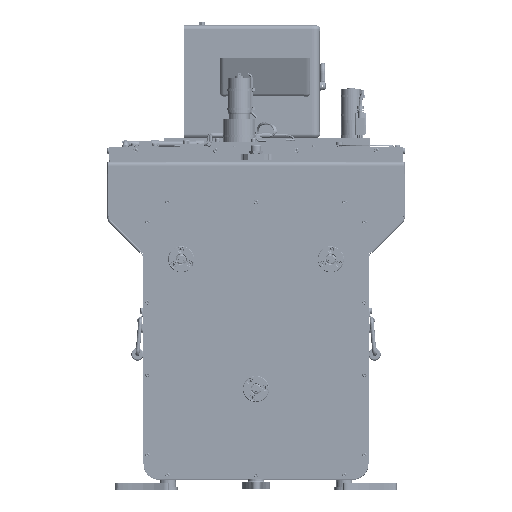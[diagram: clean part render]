
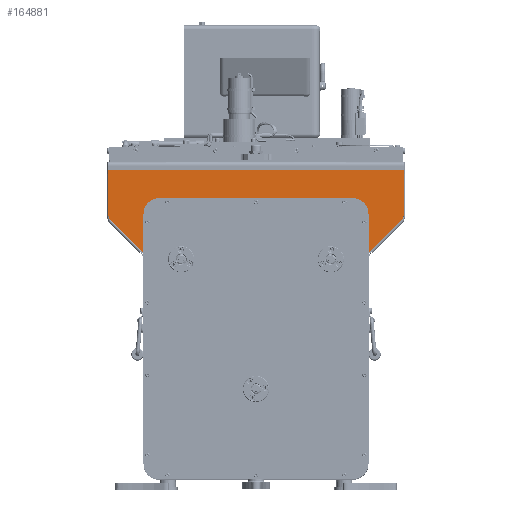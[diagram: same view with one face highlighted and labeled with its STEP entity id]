
A CAD part, top view. The second image highlights one B-rep face of the part: STEP entity #164881.
In plain terms, the highlighted planar face has unit normal (0, 0, 1).
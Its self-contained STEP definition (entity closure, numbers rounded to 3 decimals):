
#4655 = VERTEX_POINT ( 'NONE', #540386 ) ;
#5173 = AXIS2_PLACEMENT_3D ( 'NONE', #178310, #486460, #222615 ) ;
#5238 = CARTESIAN_POINT ( 'NONE',  ( 7., 5.853, 11.475 ) ) ;
#12779 = EDGE_CURVE ( 'NONE', #356141, #18304, #246631, .T. ) ;
#14145 = DIRECTION ( 'NONE',  ( 1., 0., 0. ) ) ;
#18304 = VERTEX_POINT ( 'NONE', #188521 ) ;
#23604 = AXIS2_PLACEMENT_3D ( 'NONE', #222721, #93561, #532765 ) ;
#31294 = VECTOR ( 'NONE', #378838, 39.37 ) ;
#39405 = CIRCLE ( 'NONE', #193592, 0.5 ) ;
#53566 = VECTOR ( 'NONE', #123941, 39.37 ) ;
#60147 = LINE ( 'NONE', #77439, #280729 ) ;
#69005 = CARTESIAN_POINT ( 'NONE',  ( 9.19, 11.043, 11.475 ) ) ;
#75852 = ORIENTED_EDGE ( 'NONE', *, *, #169968, .T. ) ;
#77439 = CARTESIAN_POINT ( 'NONE',  ( 7., 5.853, 11.475 ) ) ;
#92189 = EDGE_CURVE ( 'NONE', #502926, #368283, #352609, .T. ) ;
#93561 = DIRECTION ( 'NONE',  ( 0., 0., -1. ) ) ;
#98850 = PLANE ( 'NONE',  #281097 ) ;
#100334 = ORIENTED_EDGE ( 'NONE', *, *, #124029, .T. ) ;
#113729 = FACE_OUTER_BOUND ( 'NONE', #284913, .T. ) ;
#122402 = EDGE_CURVE ( 'NONE', #4655, #432500, #396541, .T. ) ;
#123941 = DIRECTION ( 'NONE',  ( 1., 0., 0. ) ) ;
#124029 = EDGE_CURVE ( 'NONE', #458742, #272753, #196140, .T. ) ;
#130610 = CARTESIAN_POINT ( 'NONE',  ( 7., 5.853, 11.475 ) ) ;
#155633 = CARTESIAN_POINT ( 'NONE',  ( 8.69, 8.25, 11.475 ) ) ;
#164881 = ADVANCED_FACE ( 'NONE', ( #113729 ), #98850, .T. ) ;
#167557 = CARTESIAN_POINT ( 'NONE',  ( -8.69, 8.25, 11.475 ) ) ;
#169968 = EDGE_CURVE ( 'NONE', #272753, #356141, #274194, .T. ) ;
#170011 = ORIENTED_EDGE ( 'NONE', *, *, #259513, .T. ) ;
#170580 = EDGE_CURVE ( 'NONE', #537941, #458742, #507936, .T. ) ;
#177804 = VERTEX_POINT ( 'NONE', #406083 ) ;
#178310 = CARTESIAN_POINT ( 'NONE',  ( -6., 8.283, 11.475 ) ) ;
#188521 = CARTESIAN_POINT ( 'NONE',  ( 7., 8.283, 11.475 ) ) ;
#191647 = ORIENTED_EDGE ( 'NONE', *, *, #12779, .T. ) ;
#193592 = AXIS2_PLACEMENT_3D ( 'NONE', #167557, #475646, #211834 ) ;
#196140 = CIRCLE ( 'NONE', #5173, 1. ) ;
#196589 = CARTESIAN_POINT ( 'NONE',  ( -7., 8.283, 11.475 ) ) ;
#199960 = DIRECTION ( 'NONE',  ( 1., 0., 0. ) ) ;
#202030 = DIRECTION ( 'NONE',  ( 0., 1., 0. ) ) ;
#204585 = EDGE_CURVE ( 'NONE', #432500, #177804, #453874, .T. ) ;
#207132 = CARTESIAN_POINT ( 'NONE',  ( -9.19, 11.043, 11.475 ) ) ;
#211382 = LINE ( 'NONE', #69005, #225128 ) ;
#211834 = DIRECTION ( 'NONE',  ( 1., 0., 0. ) ) ;
#214496 = LINE ( 'NONE', #130610, #552312 ) ;
#222615 = DIRECTION ( 'NONE',  ( 1., 0., 0. ) ) ;
#222721 = CARTESIAN_POINT ( 'NONE',  ( 6., 8.283, 11.475 ) ) ;
#225128 = VECTOR ( 'NONE', #202030, 39.37 ) ;
#230072 = ORIENTED_EDGE ( 'NONE', *, *, #242898, .T. ) ;
#231785 = VERTEX_POINT ( 'NONE', #5238 ) ;
#242898 = EDGE_CURVE ( 'NONE', #177804, #497252, #39405, .T. ) ;
#246631 = CIRCLE ( 'NONE', #23604, 1. ) ;
#259513 = EDGE_CURVE ( 'NONE', #18304, #231785, #60147, .T. ) ;
#266703 = ORIENTED_EDGE ( 'NONE', *, *, #170580, .T. ) ;
#272753 = VERTEX_POINT ( 'NONE', #499020 ) ;
#274194 = LINE ( 'NONE', #387936, #53566 ) ;
#278033 = DIRECTION ( 'NONE',  ( 0., 0., 1. ) ) ;
#280729 = VECTOR ( 'NONE', #385657, 39.37 ) ;
#281097 = AXIS2_PLACEMENT_3D ( 'NONE', #453215, #278033, #14145 ) ;
#284913 = EDGE_LOOP ( 'NONE', ( #332221, #230072, #552629, #266703, #100334, #75852, #191647, #170011, #490169, #362595, #391242, #287728 ) ) ;
#287728 = ORIENTED_EDGE ( 'NONE', *, *, #122402, .T. ) ;
#301270 = CARTESIAN_POINT ( 'NONE',  ( 9.19, 8.25, 11.475 ) ) ;
#306748 = VECTOR ( 'NONE', #546710, 39.37 ) ;
#309465 = CARTESIAN_POINT ( 'NONE',  ( -7., 5.853, 11.475 ) ) ;
#320621 = LINE ( 'NONE', #504257, #306748 ) ;
#322928 = VECTOR ( 'NONE', #562366, 39.37 ) ;
#332221 = ORIENTED_EDGE ( 'NONE', *, *, #204585, .T. ) ;
#332648 = CARTESIAN_POINT ( 'NONE',  ( -9.19, 11.043, 11.475 ) ) ;
#342629 = CARTESIAN_POINT ( 'NONE',  ( -9.19, 8.043, 11.475 ) ) ;
#352609 = CIRCLE ( 'NONE', #496157, 0.5 ) ;
#354698 = EDGE_CURVE ( 'NONE', #231785, #502926, #214496, .T. ) ;
#356141 = VERTEX_POINT ( 'NONE', #524312 ) ;
#362595 = ORIENTED_EDGE ( 'NONE', *, *, #92189, .T. ) ;
#368283 = VERTEX_POINT ( 'NONE', #301270 ) ;
#378838 = DIRECTION ( 'NONE',  ( -1., 0., 0. ) ) ;
#385657 = DIRECTION ( 'NONE',  ( 0., -1., 0. ) ) ;
#387936 = CARTESIAN_POINT ( 'NONE',  ( 6., 9.283, 11.475 ) ) ;
#389589 = CARTESIAN_POINT ( 'NONE',  ( -9.044, 7.897, 11.475 ) ) ;
#390777 = VECTOR ( 'NONE', #476005, 39.37 ) ;
#391242 = ORIENTED_EDGE ( 'NONE', *, *, #563351, .T. ) ;
#392681 = DIRECTION ( 'NONE',  ( 0.707, 0.707, 0. ) ) ;
#396541 = LINE ( 'NONE', #332648, #31294 ) ;
#406083 = CARTESIAN_POINT ( 'NONE',  ( -9.19, 8.25, 11.475 ) ) ;
#431760 = CARTESIAN_POINT ( 'NONE',  ( -7., 8.283, 11.475 ) ) ;
#432500 = VERTEX_POINT ( 'NONE', #207132 ) ;
#453215 = CARTESIAN_POINT ( 'NONE',  ( 6., 8.283, 11.475 ) ) ;
#453874 = LINE ( 'NONE', #342629, #322928 ) ;
#458742 = VERTEX_POINT ( 'NONE', #196589 ) ;
#463775 = DIRECTION ( 'NONE',  ( 0., 0., 1. ) ) ;
#465217 = EDGE_CURVE ( 'NONE', #497252, #537941, #320621, .T. ) ;
#475646 = DIRECTION ( 'NONE',  ( 0., 0., 1. ) ) ;
#476005 = DIRECTION ( 'NONE',  ( 0., 1., 0. ) ) ;
#486460 = DIRECTION ( 'NONE',  ( 0., 0., -1. ) ) ;
#490169 = ORIENTED_EDGE ( 'NONE', *, *, #354698, .T. ) ;
#496157 = AXIS2_PLACEMENT_3D ( 'NONE', #155633, #463775, #199960 ) ;
#497252 = VERTEX_POINT ( 'NONE', #389589 ) ;
#499020 = CARTESIAN_POINT ( 'NONE',  ( -6., 9.283, 11.475 ) ) ;
#502926 = VERTEX_POINT ( 'NONE', #537579 ) ;
#504257 = CARTESIAN_POINT ( 'NONE',  ( -7., 5.853, 11.475 ) ) ;
#507936 = LINE ( 'NONE', #431760, #390777 ) ;
#524312 = CARTESIAN_POINT ( 'NONE',  ( 6., 9.283, 11.475 ) ) ;
#532765 = DIRECTION ( 'NONE',  ( 1., 0., 0. ) ) ;
#537579 = CARTESIAN_POINT ( 'NONE',  ( 9.044, 7.897, 11.475 ) ) ;
#537941 = VERTEX_POINT ( 'NONE', #309465 ) ;
#540386 = CARTESIAN_POINT ( 'NONE',  ( 9.19, 11.043, 11.475 ) ) ;
#546710 = DIRECTION ( 'NONE',  ( 0.707, -0.707, 0. ) ) ;
#552312 = VECTOR ( 'NONE', #392681, 39.37 ) ;
#552629 = ORIENTED_EDGE ( 'NONE', *, *, #465217, .T. ) ;
#562366 = DIRECTION ( 'NONE',  ( 0., -1., 0. ) ) ;
#563351 = EDGE_CURVE ( 'NONE', #368283, #4655, #211382, .T. ) ;
